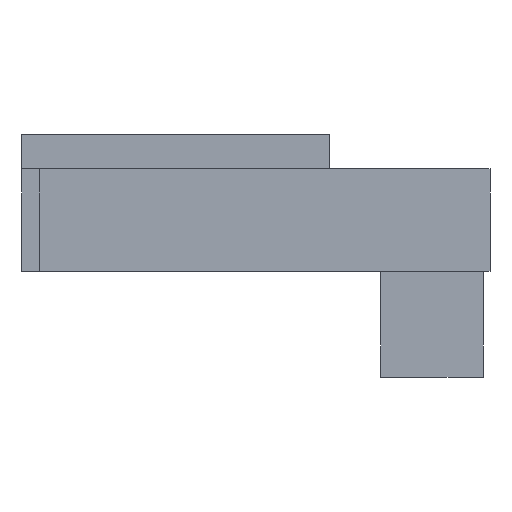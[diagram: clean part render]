
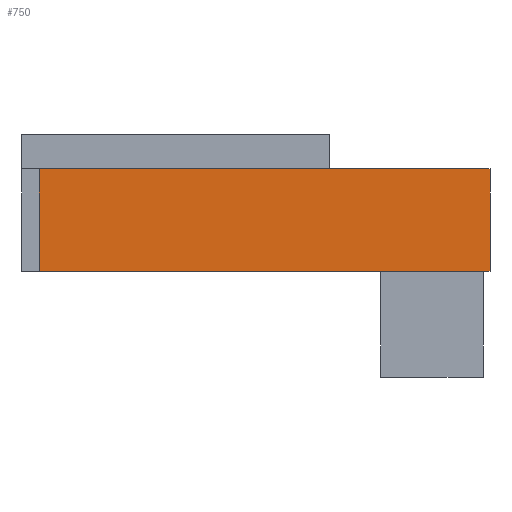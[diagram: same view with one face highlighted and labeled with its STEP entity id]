
A CAD part, front view. The second image highlights one B-rep face of the part: STEP entity #750.
In plain terms, the highlighted planar face has unit normal (0, -1, 0).
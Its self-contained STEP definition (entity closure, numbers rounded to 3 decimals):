
#22 = VERTEX_POINT('',#23);
#23 = CARTESIAN_POINT('',(12.,7.9,9.5));
#32 = PLANE('',#33);
#33 = AXIS2_PLACEMENT_3D('',#34,#35,#36);
#34 = CARTESIAN_POINT('',(12.,7.9,6.5));
#35 = DIRECTION('',(1.,0.,-0.));
#36 = DIRECTION('',(0.,0.,1.));
#44 = PLANE('',#45);
#45 = AXIS2_PLACEMENT_3D('',#46,#47,#48);
#46 = CARTESIAN_POINT('',(12.,7.9,9.5));
#47 = DIRECTION('',(0.,0.,1.));
#48 = DIRECTION('',(1.,0.,-0.));
#56 = EDGE_CURVE('',#57,#22,#59,.T.);
#57 = VERTEX_POINT('',#58);
#58 = CARTESIAN_POINT('',(12.,7.9,6.5));
#59 = SURFACE_CURVE('',#60,(#64,#71),.PCURVE_S1.);
#60 = LINE('',#61,#62);
#61 = CARTESIAN_POINT('',(12.,7.9,6.5));
#62 = VECTOR('',#63,1.);
#63 = DIRECTION('',(0.,0.,1.));
#64 = PCURVE('',#32,#65);
#65 = DEFINITIONAL_REPRESENTATION('',(#66),#70);
#66 = LINE('',#67,#68);
#67 = CARTESIAN_POINT('',(0.,0.));
#68 = VECTOR('',#69,1.);
#69 = DIRECTION('',(1.,0.));
#70 = ( GEOMETRIC_REPRESENTATION_CONTEXT(2) 
PARAMETRIC_REPRESENTATION_CONTEXT() REPRESENTATION_CONTEXT('2D SPACE',''
  ) );
#71 = PCURVE('',#72,#77);
#72 = PLANE('',#73);
#73 = AXIS2_PLACEMENT_3D('',#74,#75,#76);
#74 = CARTESIAN_POINT('',(12.,7.9,6.5));
#75 = DIRECTION('',(-0.,1.,0.));
#76 = DIRECTION('',(0.,0.,1.));
#77 = DEFINITIONAL_REPRESENTATION('',(#78),#82);
#78 = LINE('',#79,#80);
#79 = CARTESIAN_POINT('',(0.,0.));
#80 = VECTOR('',#81,1.);
#81 = DIRECTION('',(1.,0.));
#82 = ( GEOMETRIC_REPRESENTATION_CONTEXT(2) 
PARAMETRIC_REPRESENTATION_CONTEXT() REPRESENTATION_CONTEXT('2D SPACE',''
  ) );
#100 = PLANE('',#101);
#101 = AXIS2_PLACEMENT_3D('',#102,#103,#104);
#102 = CARTESIAN_POINT('',(12.,7.9,6.5));
#103 = DIRECTION('',(0.,0.,1.));
#104 = DIRECTION('',(1.,0.,-0.));
#140 = EDGE_CURVE('',#22,#141,#143,.T.);
#141 = VERTEX_POINT('',#142);
#142 = CARTESIAN_POINT('',(25.2,7.9,9.5));
#143 = SURFACE_CURVE('',#144,(#148,#155),.PCURVE_S1.);
#144 = LINE('',#145,#146);
#145 = CARTESIAN_POINT('',(12.,7.9,9.5));
#146 = VECTOR('',#147,1.);
#147 = DIRECTION('',(1.,0.,-0.));
#148 = PCURVE('',#44,#149);
#149 = DEFINITIONAL_REPRESENTATION('',(#150),#154);
#150 = LINE('',#151,#152);
#151 = CARTESIAN_POINT('',(0.,0.));
#152 = VECTOR('',#153,1.);
#153 = DIRECTION('',(1.,0.));
#154 = ( GEOMETRIC_REPRESENTATION_CONTEXT(2) 
PARAMETRIC_REPRESENTATION_CONTEXT() REPRESENTATION_CONTEXT('2D SPACE',''
  ) );
#155 = PCURVE('',#72,#156);
#156 = DEFINITIONAL_REPRESENTATION('',(#157),#161);
#157 = LINE('',#158,#159);
#158 = CARTESIAN_POINT('',(3.,0.));
#159 = VECTOR('',#160,1.);
#160 = DIRECTION('',(0.,1.));
#161 = ( GEOMETRIC_REPRESENTATION_CONTEXT(2) 
PARAMETRIC_REPRESENTATION_CONTEXT() REPRESENTATION_CONTEXT('2D SPACE',''
  ) );
#179 = PLANE('',#180);
#180 = AXIS2_PLACEMENT_3D('',#181,#182,#183);
#181 = CARTESIAN_POINT('',(25.2,7.9,6.5));
#182 = DIRECTION('',(1.,0.,-0.));
#183 = DIRECTION('',(0.,0.,1.));
#422 = EDGE_CURVE('',#57,#423,#425,.T.);
#423 = VERTEX_POINT('',#424);
#424 = CARTESIAN_POINT('',(25.2,7.9,6.5));
#425 = SURFACE_CURVE('',#426,(#430,#437),.PCURVE_S1.);
#426 = LINE('',#427,#428);
#427 = CARTESIAN_POINT('',(12.,7.9,6.5));
#428 = VECTOR('',#429,1.);
#429 = DIRECTION('',(1.,0.,-0.));
#430 = PCURVE('',#100,#431);
#431 = DEFINITIONAL_REPRESENTATION('',(#432),#436);
#432 = LINE('',#433,#434);
#433 = CARTESIAN_POINT('',(0.,0.));
#434 = VECTOR('',#435,1.);
#435 = DIRECTION('',(1.,0.));
#436 = ( GEOMETRIC_REPRESENTATION_CONTEXT(2) 
PARAMETRIC_REPRESENTATION_CONTEXT() REPRESENTATION_CONTEXT('2D SPACE',''
  ) );
#437 = PCURVE('',#72,#438);
#438 = DEFINITIONAL_REPRESENTATION('',(#439),#443);
#439 = LINE('',#440,#441);
#440 = CARTESIAN_POINT('',(0.,0.));
#441 = VECTOR('',#442,1.);
#442 = DIRECTION('',(0.,1.));
#443 = ( GEOMETRIC_REPRESENTATION_CONTEXT(2) 
PARAMETRIC_REPRESENTATION_CONTEXT() REPRESENTATION_CONTEXT('2D SPACE',''
  ) );
#750 = ADVANCED_FACE('',(#751),#72,.F.);
#751 = FACE_BOUND('',#752,.F.);
#752 = EDGE_LOOP('',(#753,#754,#755,#756));
#753 = ORIENTED_EDGE('',*,*,#422,.F.);
#754 = ORIENTED_EDGE('',*,*,#56,.T.);
#755 = ORIENTED_EDGE('',*,*,#140,.T.);
#756 = ORIENTED_EDGE('',*,*,#757,.F.);
#757 = EDGE_CURVE('',#423,#141,#758,.T.);
#758 = SURFACE_CURVE('',#759,(#763,#770),.PCURVE_S1.);
#759 = LINE('',#760,#761);
#760 = CARTESIAN_POINT('',(25.2,7.9,6.5));
#761 = VECTOR('',#762,1.);
#762 = DIRECTION('',(0.,0.,1.));
#763 = PCURVE('',#72,#764);
#764 = DEFINITIONAL_REPRESENTATION('',(#765),#769);
#765 = LINE('',#766,#767);
#766 = CARTESIAN_POINT('',(0.,13.2));
#767 = VECTOR('',#768,1.);
#768 = DIRECTION('',(1.,0.));
#769 = ( GEOMETRIC_REPRESENTATION_CONTEXT(2) 
PARAMETRIC_REPRESENTATION_CONTEXT() REPRESENTATION_CONTEXT('2D SPACE',''
  ) );
#770 = PCURVE('',#179,#771);
#771 = DEFINITIONAL_REPRESENTATION('',(#772),#776);
#772 = LINE('',#773,#774);
#773 = CARTESIAN_POINT('',(0.,0.));
#774 = VECTOR('',#775,1.);
#775 = DIRECTION('',(1.,0.));
#776 = ( GEOMETRIC_REPRESENTATION_CONTEXT(2) 
PARAMETRIC_REPRESENTATION_CONTEXT() REPRESENTATION_CONTEXT('2D SPACE',''
  ) );
